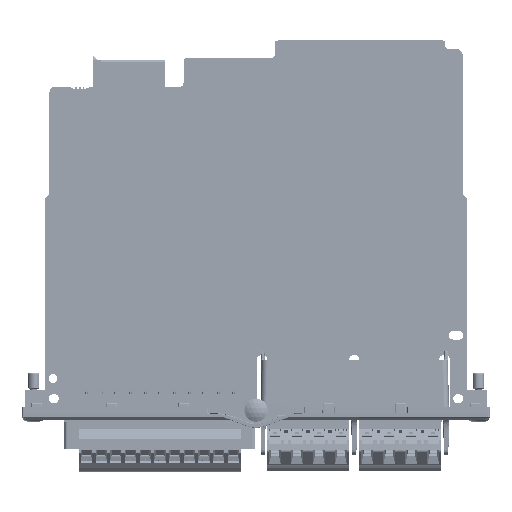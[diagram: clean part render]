
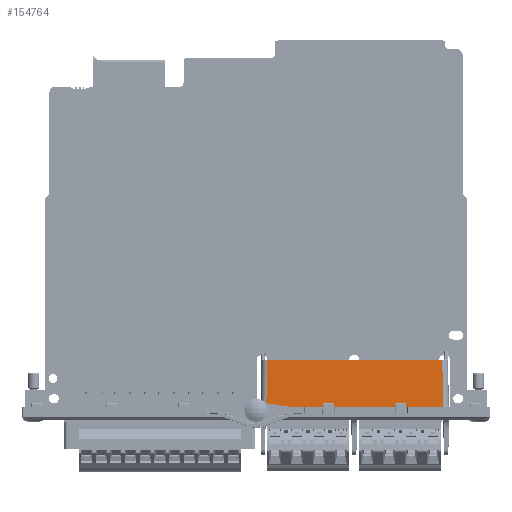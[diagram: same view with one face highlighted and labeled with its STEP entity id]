
A CAD part, front view. The second image highlights one B-rep face of the part: STEP entity #154764.
In plain terms, the highlighted planar face has unit normal (0, -1, 0.018).
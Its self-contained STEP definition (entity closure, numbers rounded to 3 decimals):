
#1982=PLANE('',#163830);
#8404=FACE_OUTER_BOUND('',#16623,.T.);
#16623=EDGE_LOOP('',(#102174,#102175,#102176,#102177,#102178,#102179,#102180,
#102181,#102182,#102183,#102184,#102185));
#29457=B_SPLINE_CURVE_WITH_KNOTS('',3,(#229285,#229286,#229287,#229288,
#229289,#229290),.UNSPECIFIED.,.F.,.F.,(4,2,4),(0.207,0.213,
0.228),.UNSPECIFIED.);
#29458=B_SPLINE_CURVE_WITH_KNOTS('',3,(#229291,#229292,#229293,#229294),
 .UNSPECIFIED.,.F.,.F.,(4,4),(0.,0.08),.UNSPECIFIED.);
#29460=B_SPLINE_CURVE_WITH_KNOTS('',3,(#229320,#229321,#229322,#229323,
#229324,#229325,#229326,#229327,#229328,#229329,#229330,#229331,#229332,
#229333,#229334,#229335,#229336,#229337,#229338,#229339,#229340,#229341),
 .UNSPECIFIED.,.F.,.F.,(4,3,3,3,3,3,3,4),(0.,0.003,0.006,
0.01,0.012,0.018,0.021,
0.024),.UNSPECIFIED.);
#29461=B_SPLINE_CURVE_WITH_KNOTS('',3,(#229344,#229345,#229346,#229347),
 .UNSPECIFIED.,.F.,.F.,(4,4),(0.,0.08),.UNSPECIFIED.);
#31885=LINE('',#228810,#47281);
#31887=LINE('',#228870,#47283);
#31918=LINE('',#229264,#47314);
#31920=LINE('',#229301,#47316);
#31921=LINE('',#229319,#47317);
#31922=LINE('',#229349,#47318);
#31923=LINE('',#229351,#47319);
#31924=LINE('',#229352,#47320);
#47281=VECTOR('',#178952,10.);
#47283=VECTOR('',#178966,10.);
#47314=VECTOR('',#179043,10.);
#47316=VECTOR('',#179049,10.);
#47317=VECTOR('',#179050,10.);
#47318=VECTOR('',#179053,10.);
#47319=VECTOR('',#179054,10.);
#47320=VECTOR('',#179055,10.);
#63515=VERTEX_POINT('',#228800);
#63516=VERTEX_POINT('',#228808);
#63519=VERTEX_POINT('',#228861);
#63520=VERTEX_POINT('',#228868);
#63559=VERTEX_POINT('',#229263);
#63560=VERTEX_POINT('',#229282);
#63561=VERTEX_POINT('',#229284);
#63562=VERTEX_POINT('',#229296);
#63563=VERTEX_POINT('',#229318);
#63564=VERTEX_POINT('',#229343);
#63565=VERTEX_POINT('',#229348);
#63566=VERTEX_POINT('',#229350);
#78459=EDGE_CURVE('',#63516,#63515,#31885,.T.);
#78467=EDGE_CURVE('',#63520,#63519,#31887,.T.);
#78525=EDGE_CURVE('',#63559,#63515,#31918,.T.);
#78528=EDGE_CURVE('',#63560,#63561,#29457,.F.);
#78529=EDGE_CURVE('',#63561,#63516,#29458,.T.);
#78531=EDGE_CURVE('',#63562,#63560,#31920,.F.);
#78532=EDGE_CURVE('',#63563,#63519,#31921,.T.);
#78533=EDGE_CURVE('',#63562,#63563,#29460,.T.);
#78534=EDGE_CURVE('',#63564,#63520,#29461,.T.);
#78535=EDGE_CURVE('',#63565,#63564,#31922,.T.);
#78536=EDGE_CURVE('',#63566,#63565,#31923,.T.);
#78537=EDGE_CURVE('',#63559,#63566,#31924,.T.);
#102174=ORIENTED_EDGE('',*,*,#78459,.F.);
#102175=ORIENTED_EDGE('',*,*,#78529,.F.);
#102176=ORIENTED_EDGE('',*,*,#78528,.F.);
#102177=ORIENTED_EDGE('',*,*,#78531,.F.);
#102178=ORIENTED_EDGE('',*,*,#78533,.T.);
#102179=ORIENTED_EDGE('',*,*,#78532,.T.);
#102180=ORIENTED_EDGE('',*,*,#78467,.F.);
#102181=ORIENTED_EDGE('',*,*,#78534,.F.);
#102182=ORIENTED_EDGE('',*,*,#78535,.F.);
#102183=ORIENTED_EDGE('',*,*,#78536,.F.);
#102184=ORIENTED_EDGE('',*,*,#78537,.F.);
#102185=ORIENTED_EDGE('',*,*,#78525,.T.);
#154764=ADVANCED_FACE('',(#8404),#1982,.T.);
#163830=AXIS2_PLACEMENT_3D('',#229342,#179051,#179052);
#178952=DIRECTION('',(-1.,0.,0.));
#178966=DIRECTION('',(-1.,0.,0.));
#179043=DIRECTION('',(0.,-0.017,-1.));
#179049=DIRECTION('',(1.,0.,0.));
#179050=DIRECTION('',(0.,-0.017,-1.));
#179051=DIRECTION('center_axis',(0.,-1.,
0.017));
#179052=DIRECTION('ref_axis',(1.,0.,0.));
#179053=DIRECTION('',(0.017,-0.017,-1.));
#179054=DIRECTION('',(1.,0.,0.));
#179055=DIRECTION('',(0.018,0.017,1.));
#228800=CARTESIAN_POINT('',(3.535,-7.064,-2.779));
#228808=CARTESIAN_POINT('',(10.475,-7.064,-2.782));
#228810=CARTESIAN_POINT('',(50.335,-7.064,-2.796));
#228861=CARTESIAN_POINT('',(17.016,-7.064,-2.784));
#228868=CARTESIAN_POINT('',(64.797,-7.064,-2.801));
#228870=CARTESIAN_POINT('',(50.335,-7.064,-2.796));
#229263=CARTESIAN_POINT('',(3.536,-7.05,-1.976));
#229264=CARTESIAN_POINT('',(3.536,-7.05,-1.976));
#229282=CARTESIAN_POINT('',(10.696,-7.051,-1.99));
#229284=CARTESIAN_POINT('',(10.476,-7.05,-1.978));
#229285=CARTESIAN_POINT('Ctrl Pts',(10.476,-7.05,
-1.978));
#229286=CARTESIAN_POINT('Ctrl Pts',(10.498,-7.05,
-1.978));
#229287=CARTESIAN_POINT('Ctrl Pts',(10.524,-7.05,
-1.98));
#229288=CARTESIAN_POINT('Ctrl Pts',(10.592,-7.05,
-1.985));
#229289=CARTESIAN_POINT('Ctrl Pts',(10.649,-7.051,
-1.99));
#229290=CARTESIAN_POINT('Ctrl Pts',(10.696,-7.051,
-1.99));
#229291=CARTESIAN_POINT('Ctrl Pts',(10.476,-7.05,
-1.978));
#229292=CARTESIAN_POINT('Ctrl Pts',(10.476,-7.055,
-2.246));
#229293=CARTESIAN_POINT('Ctrl Pts',(10.476,-7.06,-2.514));
#229294=CARTESIAN_POINT('Ctrl Pts',(10.475,-7.064,
-2.782));
#229296=CARTESIAN_POINT('',(16.796,-7.051,-1.992));
#229301=CARTESIAN_POINT('',(6.871,-7.051,-1.989));
#229318=CARTESIAN_POINT('',(17.017,-7.05,-1.981));
#229319=CARTESIAN_POINT('',(17.017,-7.05,-1.981));
#229320=CARTESIAN_POINT('Ctrl Pts',(16.796,-7.051,
-1.992));
#229321=CARTESIAN_POINT('Ctrl Pts',(16.805,-7.051,
-1.992));
#229322=CARTESIAN_POINT('Ctrl Pts',(16.813,-7.051,
-1.992));
#229323=CARTESIAN_POINT('Ctrl Pts',(16.821,-7.051,
-1.992));
#229324=CARTESIAN_POINT('Ctrl Pts',(16.831,-7.051,
-1.992));
#229325=CARTESIAN_POINT('Ctrl Pts',(16.84,-7.051,-1.991));
#229326=CARTESIAN_POINT('Ctrl Pts',(16.85,-7.051,-1.991));
#229327=CARTESIAN_POINT('Ctrl Pts',(16.861,-7.051,
-1.99));
#229328=CARTESIAN_POINT('Ctrl Pts',(16.873,-7.051,
-1.989));
#229329=CARTESIAN_POINT('Ctrl Pts',(16.884,-7.051,-1.988));
#229330=CARTESIAN_POINT('Ctrl Pts',(16.892,-7.051,
-1.988));
#229331=CARTESIAN_POINT('Ctrl Pts',(16.899,-7.051,
-1.987));
#229332=CARTESIAN_POINT('Ctrl Pts',(16.906,-7.051,
-1.987));
#229333=CARTESIAN_POINT('Ctrl Pts',(16.923,-7.051,-1.985));
#229334=CARTESIAN_POINT('Ctrl Pts',(16.94,-7.05,
-1.984));
#229335=CARTESIAN_POINT('Ctrl Pts',(16.956,-7.05,
-1.983));
#229336=CARTESIAN_POINT('Ctrl Pts',(16.968,-7.05,
-1.982));
#229337=CARTESIAN_POINT('Ctrl Pts',(16.979,-7.05,
-1.982));
#229338=CARTESIAN_POINT('Ctrl Pts',(16.991,-7.05,
-1.981));
#229339=CARTESIAN_POINT('Ctrl Pts',(17.,-7.05,
-1.981));
#229340=CARTESIAN_POINT('Ctrl Pts',(17.008,-7.05,
-1.981));
#229341=CARTESIAN_POINT('Ctrl Pts',(17.017,-7.05,
-1.981));
#229342=CARTESIAN_POINT('Origin',(66.839,-7.094,-4.498));
#229343=CARTESIAN_POINT('',(64.797,-7.05,-1.997));
#229344=CARTESIAN_POINT('Ctrl Pts',(64.797,-7.05,
-1.997));
#229345=CARTESIAN_POINT('Ctrl Pts',(64.797,-7.055,
-2.265));
#229346=CARTESIAN_POINT('Ctrl Pts',(64.797,-7.06,
-2.533));
#229347=CARTESIAN_POINT('Ctrl Pts',(64.797,-7.064,
-2.801));
#229348=CARTESIAN_POINT('',(64.483,-6.731,16.326));
#229349=CARTESIAN_POINT('',(64.838,-7.092,-4.377));
#229350=CARTESIAN_POINT('',(3.862,-6.731,16.347));
#229351=CARTESIAN_POINT('',(50.495,-6.731,16.331));
#229352=CARTESIAN_POINT('',(3.501,-7.085,-3.941));
